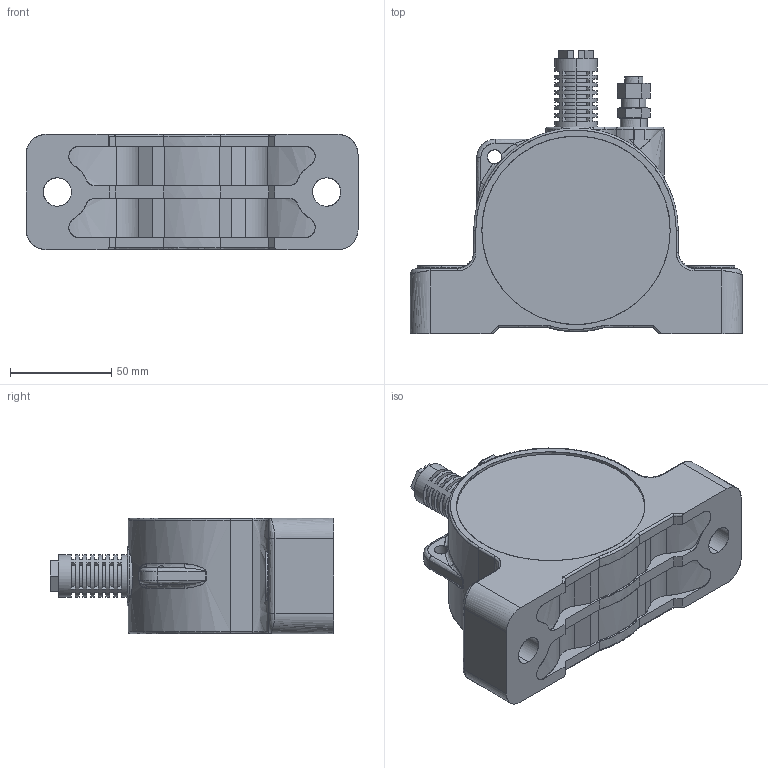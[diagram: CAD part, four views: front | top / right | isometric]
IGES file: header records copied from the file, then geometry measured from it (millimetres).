
Start section: SolidWorks IGES file using analytic representation for surfaces
Global section: file name: V:\WORK\08133\HP 寸法図\ball\UP335A\test_D46000C-000 UP335A_defeature.IGS,15; native system: HSolidWorks 2018; preprocessor: SolidWorks 2018; author: n-udagawa; date: 230214.134940; units: millimetre
Bounding box: 164 x 140 x 57 mm (x, y, z)
Surface area: 61859.8 mm2 (no closed solid volume)
Topology: 0 solids, 0 shells, 358 faces, 6224 edges, 7253 vertices
Faces by surface type: bspline 358
